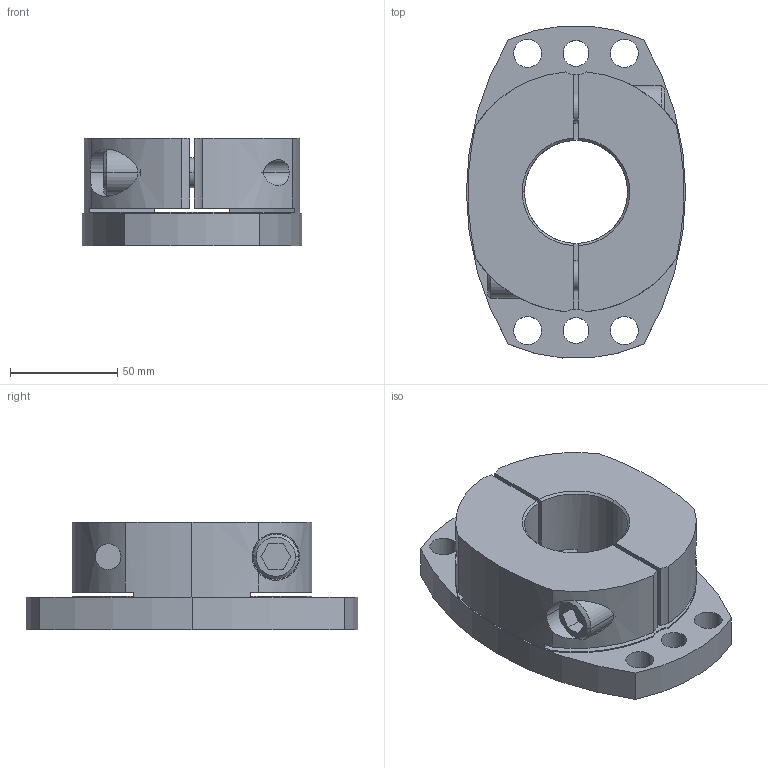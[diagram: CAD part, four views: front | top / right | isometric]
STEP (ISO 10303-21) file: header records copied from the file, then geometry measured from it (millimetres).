
FILE_DESCRIPTION((''),'2;1');
FILE_NAME('SHDB-155B-48.stp','2026-01-28T09:00:51',(''),(''),'AutoCAD STEP 2000i','AutoCAD 2000i',', , ');
FILE_SCHEMA(('CONFIG_CONTROL_DESIGN'));
Length unit declared in the file: millimetre
Products named in the file (2): SHDB-155B-45; 忣兜1
Assembly tree (1 placements, depth 2):
  SHDB-155B-45
    忣兜1
Bounding box: 102 x 154.46 x 50 mm (x, y, z)
Volume: 404032.2 mm3; surface area: 69225.7 mm2
Topology: 1 solids, 1 shells, 102 faces, 274 edges, 180 vertices
Faces by surface type: cylinder 58, plane 34, cone 10
Entity records: 3673 total; most frequent: CARTESIAN_POINT 874, DIRECTION 600, ORIENTED_EDGE 548, EDGE_CURVE 274, AXIS2_PLACEMENT_3D 238, VERTEX_POINT 180, CIRCLE 134, EDGE_LOOP 126
